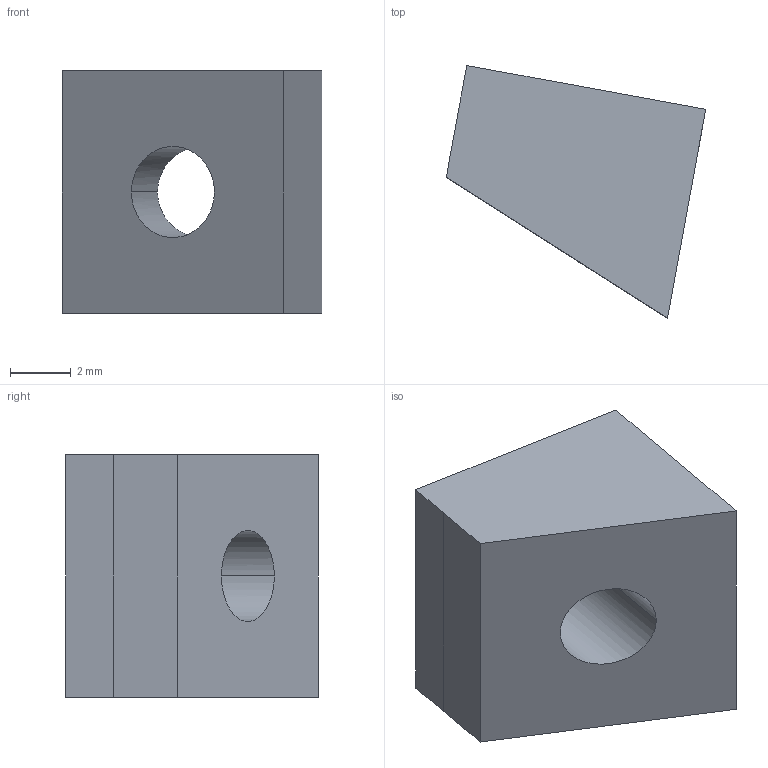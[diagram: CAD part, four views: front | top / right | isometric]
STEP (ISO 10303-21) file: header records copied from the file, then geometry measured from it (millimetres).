
FILE_DESCRIPTION(('STEP AP214'),'1');
FILE_NAME('tmp0.step','2025-04-19T14:25:13',(' '),(' '),'Spatial InterOp 3D',' ',' ');
FILE_SCHEMA(('AUTOMOTIVE_DESIGN { 1 0 10303 214 1 1 1 1 }'));
Length unit declared in the file: millimetre
Products named in the file (1): 1
Bounding box: 8.54 x 8.32 x 8 mm (x, y, z)
Volume: 305.4 mm3; surface area: 340.6 mm2
Topology: 1 solids, 1 shells, 10 faces, 24 edges, 16 vertices
Faces by surface type: plane 8, cylinder 2
Entity records: 321 total; most frequent: CARTESIAN_POINT 51, DIRECTION 50, ORIENTED_EDGE 48, EDGE_CURVE 24, LINE 20, VECTOR 20, VERTEX_POINT 16, AXIS2_PLACEMENT_3D 15
